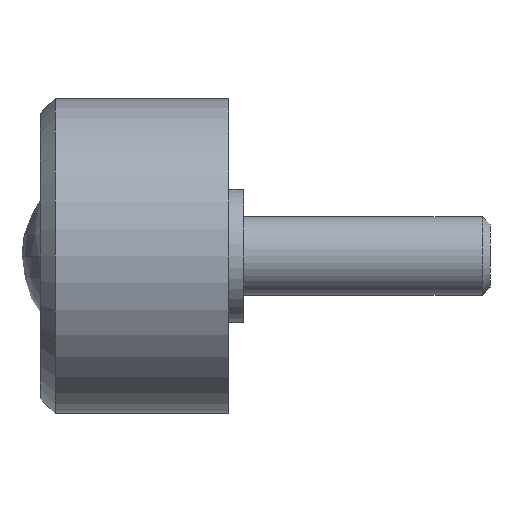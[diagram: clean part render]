
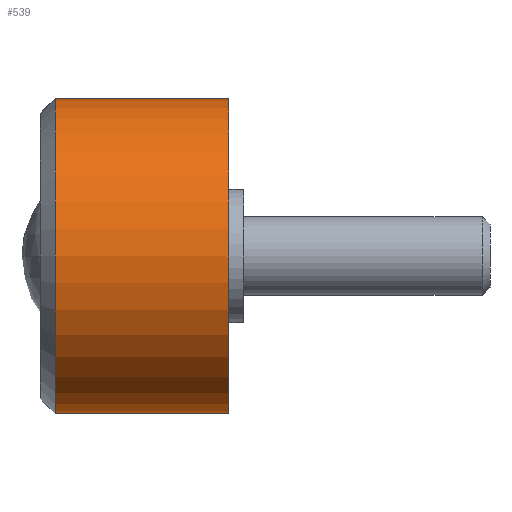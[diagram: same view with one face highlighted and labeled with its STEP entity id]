
A CAD part, left-side view. The second image highlights one B-rep face of the part: STEP entity #539.
In plain terms, the highlighted cylindrical face has radius 16 mm (diameter 32 mm), a partial arc.
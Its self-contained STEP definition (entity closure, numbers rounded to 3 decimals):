
#5 = AXIS2_PLACEMENT_3D ( 'NONE', #660, #645, #361 ) ;
#14 = VERTEX_POINT ( 'NONE', #729 ) ;
#45 = CARTESIAN_POINT ( 'NONE',  ( 0., 17.6, -16. ) ) ;
#91 = EDGE_CURVE ( 'NONE', #454, #14, #671, .T. ) ;
#106 = ORIENTED_EDGE ( 'NONE', *, *, #282, .F. ) ;
#121 = CYLINDRICAL_SURFACE ( 'NONE', #5, 16. ) ;
#155 = VERTEX_POINT ( 'NONE', #206 ) ;
#206 = CARTESIAN_POINT ( 'NONE',  ( 0., 0., 16. ) ) ;
#242 = DIRECTION ( 'NONE',  ( 0., -1., 0. ) ) ;
#244 = DIRECTION ( 'NONE',  ( 0., -1., 0. ) ) ;
#274 = DIRECTION ( 'NONE',  ( 0., -1., 0. ) ) ;
#282 = EDGE_CURVE ( 'NONE', #155, #14, #313, .T. ) ;
#306 = ORIENTED_EDGE ( 'NONE', *, *, #532, .T. ) ;
#308 = DIRECTION ( 'NONE',  ( 0., -1., 0. ) ) ;
#313 = CIRCLE ( 'NONE', #747, 16. ) ;
#324 = ORIENTED_EDGE ( 'NONE', *, *, #91, .T. ) ;
#344 = CIRCLE ( 'NONE', #578, 16. ) ;
#361 = DIRECTION ( 'NONE',  ( 0., 0., -1. ) ) ;
#384 = ORIENTED_EDGE ( 'NONE', *, *, #386, .F. ) ;
#386 = EDGE_CURVE ( 'NONE', #613, #155, #399, .T. ) ;
#398 = CARTESIAN_POINT ( 'NONE',  ( 0., 0., -16. ) ) ;
#399 = LINE ( 'NONE', #688, #620 ) ;
#415 = CARTESIAN_POINT ( 'NONE',  ( 0., 17.6, 16. ) ) ;
#420 = DIRECTION ( 'NONE',  ( 0., 0., 1. ) ) ;
#425 = FACE_OUTER_BOUND ( 'NONE', #562, .T. ) ;
#454 = VERTEX_POINT ( 'NONE', #45 ) ;
#467 = CARTESIAN_POINT ( 'NONE',  ( 0., 0., 0. ) ) ;
#485 = DIRECTION ( 'NONE',  ( 0., 0., -1. ) ) ;
#532 = EDGE_CURVE ( 'NONE', #613, #454, #344, .T. ) ;
#539 = ADVANCED_FACE ( 'NONE', ( #425 ), #121, .T. ) ;
#562 = EDGE_LOOP ( 'NONE', ( #384, #306, #324, #106 ) ) ;
#578 = AXIS2_PLACEMENT_3D ( 'NONE', #715, #242, #420 ) ;
#613 = VERTEX_POINT ( 'NONE', #415 ) ;
#620 = VECTOR ( 'NONE', #274, 1000. ) ;
#645 = DIRECTION ( 'NONE',  ( 0., -1., 0. ) ) ;
#660 = CARTESIAN_POINT ( 'NONE',  ( 0., 0., 0. ) ) ;
#670 = VECTOR ( 'NONE', #308, 1000. ) ;
#671 = LINE ( 'NONE', #398, #670 ) ;
#688 = CARTESIAN_POINT ( 'NONE',  ( 0., 0., 16. ) ) ;
#715 = CARTESIAN_POINT ( 'NONE',  ( 0., 17.6, 0. ) ) ;
#729 = CARTESIAN_POINT ( 'NONE',  ( 0., 0., -16. ) ) ;
#747 = AXIS2_PLACEMENT_3D ( 'NONE', #467, #244, #485 ) ;
